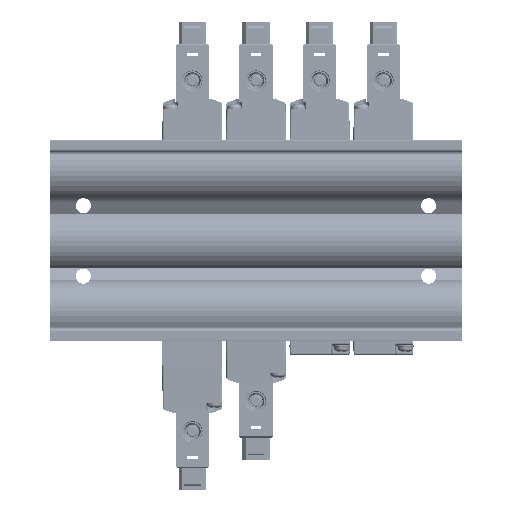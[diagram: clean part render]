
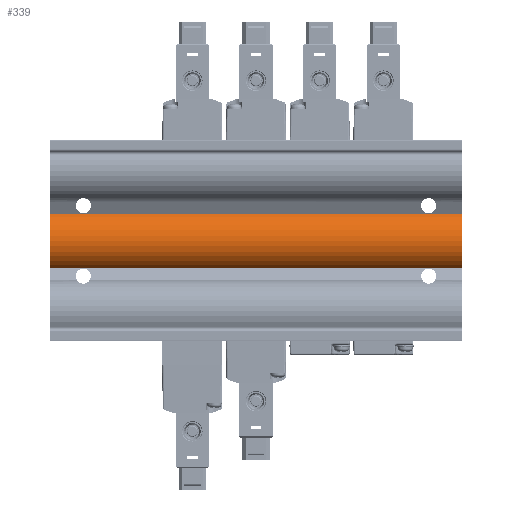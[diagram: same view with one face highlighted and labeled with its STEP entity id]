
A CAD part, front view. The second image highlights one B-rep face of the part: STEP entity #339.
In plain terms, the highlighted cylindrical face has radius 9.5 mm (diameter 19 mm), a partial arc.
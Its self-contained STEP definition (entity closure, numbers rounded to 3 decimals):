
#59 = LINE ( 'NONE', #18324, #42155 ) ;
#339 = ADVANCED_FACE ( 'NONE', ( #24724 ), #58953, .T. ) ;
#2838 = CIRCLE ( 'NONE', #53226, 9.5 ) ;
#6076 = EDGE_CURVE ( 'NONE', #17671, #35761, #2838, .T. ) ;
#10452 = AXIS2_PLACEMENT_3D ( 'NONE', #28595, #52431, #38370 ) ;
#13240 = DIRECTION ( 'NONE',  ( 0., 0., -1. ) ) ;
#13989 = CARTESIAN_POINT ( 'NONE',  ( 61.5, -15., -8.078 ) ) ;
#16450 = DIRECTION ( 'NONE',  ( -1., 0., 0. ) ) ;
#17671 = VERTEX_POINT ( 'NONE', #39777 ) ;
#17744 = DIRECTION ( 'NONE',  ( -1., 0., 0. ) ) ;
#18263 = DIRECTION ( 'NONE',  ( 1., 0., 0. ) ) ;
#18324 = CARTESIAN_POINT ( 'NONE',  ( 61.5, -15., -8.078 ) ) ;
#19135 = VERTEX_POINT ( 'NONE', #46108 ) ;
#20408 = EDGE_LOOP ( 'NONE', ( #46961, #50266, #48064, #56447 ) ) ;
#22432 = EDGE_CURVE ( 'NONE', #19135, #17671, #36089, .T. ) ;
#24724 = FACE_OUTER_BOUND ( 'NONE', #20408, .T. ) ;
#26738 = CIRCLE ( 'NONE', #38071, 9.5 ) ;
#26884 = EDGE_CURVE ( 'NONE', #19135, #49041, #26738, .T. ) ;
#27221 = CARTESIAN_POINT ( 'NONE',  ( 61.5, -10., 0. ) ) ;
#27435 = DIRECTION ( 'NONE',  ( 1., 0., 0. ) ) ;
#28595 = CARTESIAN_POINT ( 'NONE',  ( 61.5, -10., 0. ) ) ;
#31708 = VECTOR ( 'NONE', #16450, 1000. ) ;
#35761 = VERTEX_POINT ( 'NONE', #55593 ) ;
#36089 = LINE ( 'NONE', #43506, #31708 ) ;
#38071 = AXIS2_PLACEMENT_3D ( 'NONE', #27221, #27435, #13240 ) ;
#38370 = DIRECTION ( 'NONE',  ( 0., 0., 1. ) ) ;
#39777 = CARTESIAN_POINT ( 'NONE',  ( -61.5, -15., 8.078 ) ) ;
#42155 = VECTOR ( 'NONE', #17744, 1000. ) ;
#43506 = CARTESIAN_POINT ( 'NONE',  ( 61.5, -15., 8.078 ) ) ;
#46108 = CARTESIAN_POINT ( 'NONE',  ( 61.5, -15., 8.078 ) ) ;
#46177 = DIRECTION ( 'NONE',  ( 0., 0., -1. ) ) ;
#46759 = EDGE_CURVE ( 'NONE', #49041, #35761, #59, .T. ) ;
#46961 = ORIENTED_EDGE ( 'NONE', *, *, #6076, .T. ) ;
#48064 = ORIENTED_EDGE ( 'NONE', *, *, #26884, .F. ) ;
#49041 = VERTEX_POINT ( 'NONE', #13989 ) ;
#50266 = ORIENTED_EDGE ( 'NONE', *, *, #46759, .F. ) ;
#52431 = DIRECTION ( 'NONE',  ( -1., 0., 0. ) ) ;
#53226 = AXIS2_PLACEMENT_3D ( 'NONE', #55346, #18263, #46177 ) ;
#55346 = CARTESIAN_POINT ( 'NONE',  ( -61.5, -10., 0. ) ) ;
#55593 = CARTESIAN_POINT ( 'NONE',  ( -61.5, -15., -8.078 ) ) ;
#56447 = ORIENTED_EDGE ( 'NONE', *, *, #22432, .T. ) ;
#58953 = CYLINDRICAL_SURFACE ( 'NONE', #10452, 9.5 ) ;
